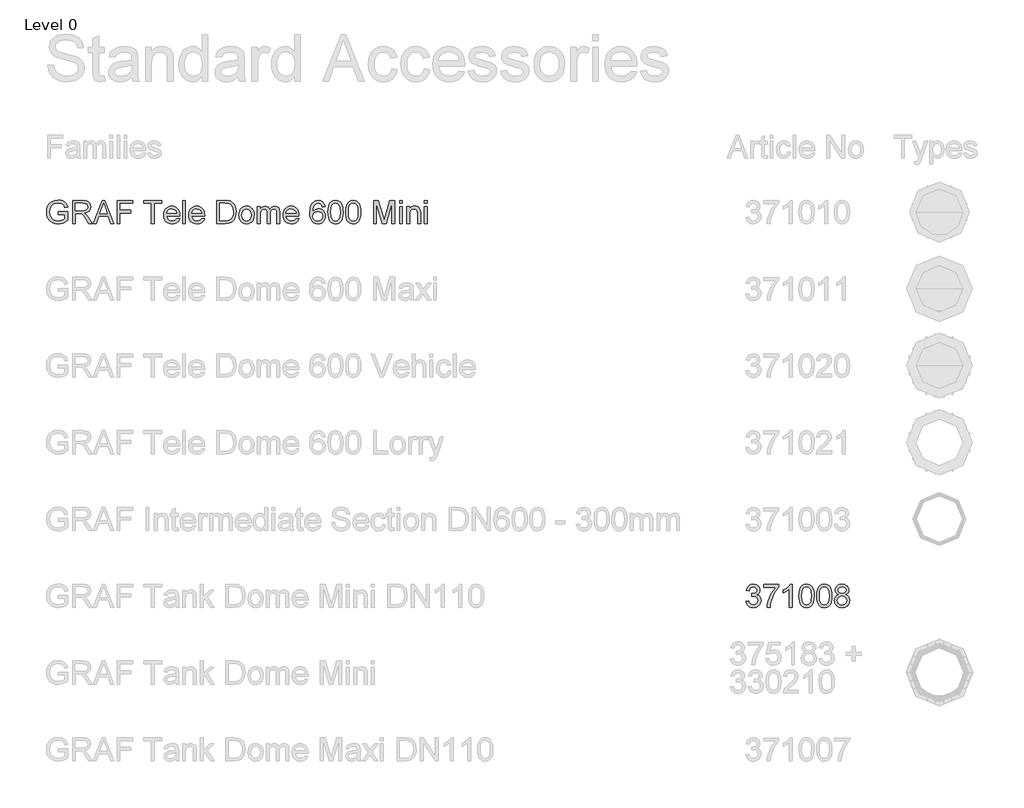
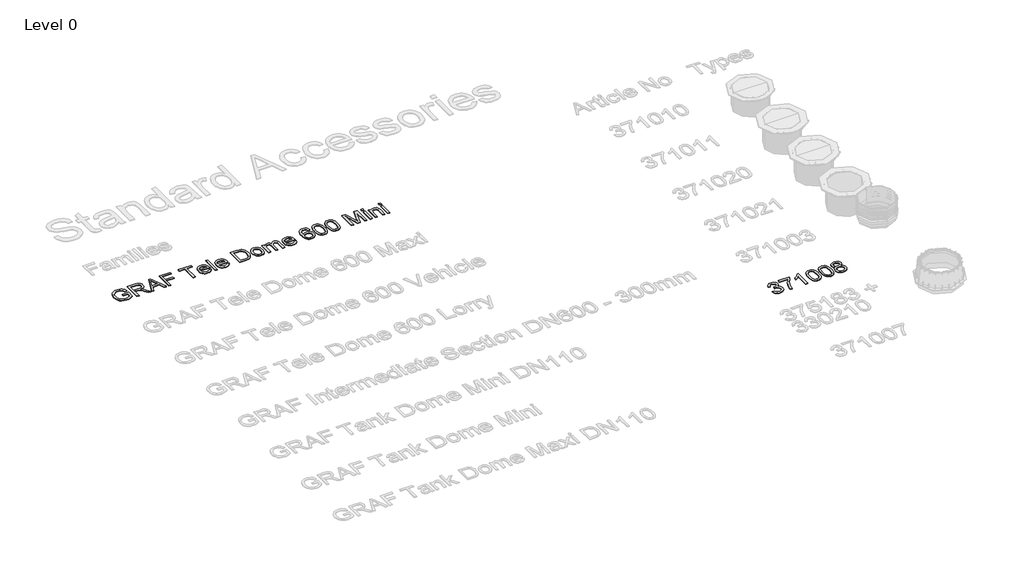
# One storey, part 9 of 20: 2 proxies.
"""IFC4 building model written with IfcOpenShell, lengths in millimetres."""

from ifc_helpers import new_model, si_unit, origin, origin_with_axes, place, context, project, spatial, polyline, outline, extrude, element, save

model = new_model("IFC4")

# Units and contexts
model_context = context("Model", 3, world=origin())
ifc_project = project(units=[si_unit("LENGTHUNIT", "METRE", prefix="MILLI")], contexts=[model_context])

# Site, building, storey
site = spatial("IfcSite", under=ifc_project)
building = spatial("IfcBuilding", under=site)
storey = spatial("IfcBuildingStorey", under=building, Name="Level 0", Elevation=0.0)

# Proxies
placement = place(None, origin())
element("IfcBuildingElementProxy", 1, Name="300mm Arial", ObjectType="300mm Arial", at=placement, inside=storey, context=model_context, shape_type="SweptSolid", body=[
    extrude(outline(polyline([(-15240.9940387, -9082.9794047), (-15240.9940387, -9045.3082884), (-15118.5629107, -9045.3082884), (-15118.5629107, -9157.9537553), (-15148.3153671, -9178.6471176), (-15179.0059225, -9193.4911561), (-15210.5610007, -9202.4306885), (-15242.9070251, -9205.4105327), (-15285.1674693, -9200.674052), (-15323.3628175, -9186.46461), (-15355.0926395, -9163.2788472), (-15377.9565055, -9131.6134045), (-15391.7796715, -9093.6295885), (-15396.3873935, -9051.4887059), (-15391.7980656, -9009.0443207), (-15378.0300819, -8969.5613856), (-15355.6536596, -8936.442809), (-15325.2390156, -8913.0914993), (-15288.1932987, -8899.2407422), (-15245.9236575, -8894.6238232), (-15214.8928112, -8897.3001647), (-15186.9889618, -8905.3291892), (-15163.4904994, -8918.1314827), (-15145.6758138, -8935.1276309), (-15132.4964413, -8957.1361712), (-15122.9039183, -8984.9756412), (-15157.6319786, -8994.7613023), (-15165.3850917, -8974.9048716), (-15174.8120678, -8959.9228773), (-15187.2832674, -8948.6289001), (-15204.169051, -8939.8365204), (-15224.3013932, -8934.1803347), (-15246.5122687, -8932.2949395), (-15272.5123287, -8934.3274875), (-15294.7415982, -8940.4251316), (-15313.1173039, -8949.8245166), (-15327.5566722, -8961.7622873), (-15346.9440533, -8990.7881767), (-15355.7732212, -9019.225455), (-15358.7162772, -9049.9436015), (-15355.175413, -9085.9684459), (-15344.5528204, -9115.6105377), (-15327.1703961, -9138.6583447), (-15303.3500369, -9154.9003348), (-15275.4737787, -9164.529646), (-15245.9236575, -9167.7394164), (-15219.831627, -9165.3205923), (-15194.3833899, -9158.0641199), (-15172.2828791, -9148.0669267), (-15156.234027, -9137.42594), (-15156.234027, -9082.9794047), (-15240.9940387, -9082.9794047)])), origin_with_axes(), (0.0, 0.0, 1.0), 10.0),
    extrude(outline(polyline([(-15057.3473467, -9200.7016432), (-15057.3473467, -8899.3327127), (-14927.4850024, -8899.3327127), (-14892.5821982, -8901.3652607), (-14867.1891434, -8907.4629048), (-14848.6294968, -8918.7200939), (-14834.2269167, -8936.2312768), (-14824.9838815, -8957.9455116), (-14821.9028698, -8981.811856), (-14827.0072325, -9011.4999331), (-14842.3203206, -9036.1112385), (-14853.9200997, -9046.1406214), (-14868.3019865, -9054.1558504), (-14905.4120827, -9064.1438466), (-14884.0013506, -9080.257078), (-14853.467145, -9119.0318402), (-14803.2144645, -9200.7016432), (-14846.9924219, -9200.7016432), (-14886.2086426, -9138.2352804), (-14914.5355562, -9096.8853441), (-14934.4379722, -9077.3508102), (-14952.3538253, -9070.1771113), (-14974.2060158, -9068.8527361), (-15019.6762304, -9068.8527361), (-15019.6762304, -9200.7016432), (-15057.3473467, -9200.7016432)]), holes=[polyline([(-15019.6762304, -9031.1816198), (-14935.3576771, -9031.1816198), (-14911.1418448, -9029.8480476), (-14892.3522719, -9025.8473309), (-14878.2072092, -9018.9127553), (-14867.9249074, -9008.7776063), (-14861.6617165, -8996.5179388), (-14859.5739861, -8983.2098076), (-14863.5563087, -8964.834102), (-14875.5032765, -8950.0268517), (-14896.058683, -8940.2595847), (-14925.8663217, -8937.003829), (-15019.6762304, -8937.003829), (-15019.6762304, -9031.1816198)])]), origin_with_axes(), (0.0, 0.0, 1.0), 10.0),
    extrude(outline(polyline([(-14791.0743586, -9200.7016432), (-14670.7769462, -8899.3327127), (-14638.6976362, -8899.3327127), (-14518.4002238, -9200.7016432), (-14558.2050557, -9200.7016432), (-14592.7123868, -9106.5238524), (-14716.835772, -9106.5238524), (-14751.2695268, -9200.7016432), (-14791.0743586, -9200.7016432)]), holes=[polyline([(-14703.003409, -9068.8527361), (-14606.4711735, -9068.8527361), (-14633.6208647, -8994.7613023), (-14654.7372912, -8937.003829), (-14673.499273, -8988.2865792), (-14703.003409, -9068.8527361)])]), origin_with_axes(), (0.0, 0.0, 1.0), 10.0),
    extrude(outline(polyline([(-14478.1539335, -9200.7016432), (-14478.1539335, -8899.3327127), (-14275.6716834, -8899.3327127), (-14275.6716834, -8937.003829), (-14440.4828172, -8937.003829), (-14440.4828172, -9026.4727303), (-14299.2161311, -9026.4727303), (-14299.2161311, -9064.1438466), (-14440.4828172, -9064.1438466), (-14440.4828172, -9200.7016432), (-14478.1539335, -9200.7016432)])), origin_with_axes(), (0.0, 0.0, 1.0), 10.0),
    extrude(outline(polyline([(-14030.8094274, -9200.7016432), (-14030.8094274, -8937.003829), (-14129.6961077, -8937.003829), (-14129.6961077, -8899.3327127), (-13894.2516308, -8899.3327127), (-13894.2516308, -8937.003829), (-13993.1383111, -8937.003829), (-13993.1383111, -9200.7016432), (-14030.8094274, -9200.7016432)])), origin_with_axes(), (0.0, 0.0, 1.0), 10.0),
    extrude(outline(polyline([(-13701.6286181, -9134.7771896), (-13664.6932658, -9139.4860792), (-13678.001397, -9167.3163521), (-13699.2373851, -9188.1200789), (-13727.9229837, -9201.0879193), (-13763.5799461, -9205.4105327), (-13786.9542484, -9203.5458308), (-13807.7809678, -9197.9517253), (-13826.0601045, -9188.6282159), (-13841.7916583, -9175.5753029), (-13854.4422004, -9159.1562696), (-13863.4783019, -9139.7343995), (-13868.8999628, -9117.3096927), (-13870.7071831, -9091.882149), (-13868.8815687, -9065.5923819), (-13863.4047255, -9042.4204147), (-13854.2766535, -9022.3662475), (-13841.4973527, -9005.4298801), (-13825.8071856, -8991.9745962), (-13807.9465147, -8982.363679), (-13787.9153401, -8976.5971288), (-13765.7136617, -8974.6749453), (-13744.2270539, -8976.5925302), (-13724.7959868, -8982.3452849), (-13707.4204603, -8991.9332094), (-13692.1004744, -9005.3563037), (-13679.5947859, -9022.2558829), (-13670.6621512, -9042.2732619), (-13665.3025704, -9065.4084409), (-13663.5160434, -9091.6614198), (-13663.7367726, -9101.8149629), (-13833.0360668, -9101.8149629), (-13826.5153584, -9130.0131178), (-13811.3678173, -9150.7432682), (-13789.5064297, -9163.4903794), (-13762.8441821, -9167.7394164), (-13742.7946134, -9165.7712477), (-13725.9088298, -9159.8667417), (-13712.1868314, -9149.6580163), (-13701.6286181, -9134.7771896)]), holes=[polyline([(-13833.0360668, -9064.1438466), (-13701.1871597, -9064.1438466), (-13706.2823254, -9044.2414306), (-13716.2703215, -9030.0043974), (-13738.2328766, -9016.7606456), (-13765.8608145, -9012.3460616), (-13791.2538692, -9015.8685317), (-13812.2507341, -9026.4359421), (-13826.8464522, -9042.9078584), (-13833.0360668, -9064.1438466)])]), origin_with_axes(), (0.0, 0.0, 1.0), 10.0),
    extrude(outline(polyline([(-13625.8449271, -9200.7016432), (-13625.8449271, -8899.3327127), (-13588.1738108, -8899.3327127), (-13588.1738108, -9200.7016432), (-13625.8449271, -9200.7016432)])), origin_with_axes(), (0.0, 0.0, 1.0), 10.0),
    extrude(outline(polyline([(-13376.71524, -9134.7771896), (-13339.7798877, -9139.4860792), (-13353.0880188, -9167.3163521), (-13374.324007, -9188.1200789), (-13403.0096056, -9201.0879193), (-13438.666568, -9205.4105327), (-13462.0408702, -9203.5458308), (-13482.8675897, -9197.9517253), (-13501.1467263, -9188.6282159), (-13516.8782801, -9175.5753029), (-13529.5288222, -9159.1562696), (-13538.5649238, -9139.7343995), (-13543.9865847, -9117.3096927), (-13545.793805, -9091.882149), (-13543.9681906, -9065.5923819), (-13538.4913474, -9042.4204147), (-13529.3632754, -9022.3662475), (-13516.5839745, -9005.4298801), (-13500.8938074, -8991.9745962), (-13483.0331366, -8982.363679), (-13463.0019619, -8976.5971288), (-13440.8002835, -8974.6749453), (-13419.3136758, -8976.5925302), (-13399.8826086, -8982.3452849), (-13382.5070821, -8991.9332094), (-13367.1870963, -9005.3563037), (-13354.6814077, -9022.2558829), (-13345.748773, -9042.2732619), (-13340.3891922, -9065.4084409), (-13338.6026653, -9091.6614198), (-13338.8233945, -9101.8149629), (-13508.1226887, -9101.8149629), (-13501.6019803, -9130.0131178), (-13486.4544391, -9150.7432682), (-13464.5930516, -9163.4903794), (-13437.930804, -9167.7394164), (-13417.8812352, -9165.7712477), (-13400.9954517, -9159.8667417), (-13387.2734532, -9149.6580163), (-13376.71524, -9134.7771896)]), holes=[polyline([(-13508.1226887, -9064.1438466), (-13376.2737816, -9064.1438466), (-13381.3689472, -9044.2414306), (-13391.3569434, -9030.0043974), (-13413.3194985, -9016.7606456), (-13440.9474363, -9012.3460616), (-13466.3404911, -9015.8685317), (-13487.3373559, -9026.4359421), (-13501.9330741, -9042.9078584), (-13508.1226887, -9064.1438466)])]), origin_with_axes(), (0.0, 0.0, 1.0), 10.0),
    extrude(outline(polyline([(-13178.500421, -9200.7016432), (-13178.500421, -8899.3327127), (-13074.5369691, -8899.3327127), (-13020.7526214, -8903.6737203), (-12996.7299272, -8912.0430357), (-12976.4596292, -8925.2316052), (-12955.6191142, -8948.1874417), (-12940.7750757, -8976.7350845), (-12931.8907255, -9010.3227107), (-12928.9292754, -9048.3984972), (-12930.9342323, -9080.7445216), (-12936.9491029, -9109.209391), (-12946.1093646, -9133.4436174), (-12957.5504947, -9153.097713), (-12970.7206701, -9168.6131361), (-12985.0680679, -9180.4313452), (-13001.5399842, -9189.1961338), (-13021.0837152, -9195.5512952), (-13069.533774, -9200.7016432), (-13178.500421, -9200.7016432)]), holes=[polyline([(-13140.8293047, -9163.0305269), (-13074.1690871, -9163.0305269), (-13046.5963316, -9161.6693635), (-13025.6822402, -9157.5858733), (-13009.9001026, -9151.0191797), (-12997.7232085, -9142.2084059), (-12984.6358066, -9125.9020365), (-12974.8041602, -9104.794807), (-12968.6513339, -9078.794747), (-12966.6003918, -9047.809886), (-12970.6195026, -9006.7542553), (-12982.6768349, -8976.4407789), (-13000.4915206, -8955.618658), (-13021.782691, -8943.0370938), (-13043.4509405, -8938.5121452), (-13075.1991567, -8937.003829), (-13140.8293047, -8937.003829), (-13140.8293047, -9163.0305269)])]), origin_with_axes(), (0.0, 0.0, 1.0), 10.0),
    extrude(outline(polyline([(-12891.2581591, -9090.042739), (-12889.2210126, -9061.3801331), (-12883.1095729, -9036.6814556), (-12872.9238402, -9015.9467067), (-12858.6638144, -8999.1758862), (-12844.3072195, -8988.4567246), (-12828.4607026, -8980.8001806), (-12811.1242635, -8976.2062541), (-12792.2979024, -8974.6749453), (-12771.514869, -8976.5396472), (-12752.7229968, -8982.1337528), (-12735.9222859, -8991.4572621), (-12721.1127364, -9004.5101751), (-12709.0255136, -9020.8510335), (-12700.391783, -9040.0383788), (-12695.2115447, -9062.0722111), (-12693.4847985, -9086.9525303), (-12696.5382191, -9125.0099227), (-12705.6984808, -9153.9806298), (-12720.6988691, -9175.6764705), (-12741.2726697, -9191.9092635), (-12765.7092312, -9202.0352154), (-12792.2979024, -9205.4105327), (-12813.3844386, -9203.5527286), (-12832.3510547, -9197.9793164), (-12849.1977508, -9188.690296), (-12863.9245269, -9175.6856675), (-12875.882991, -9159.18616), (-12884.4247511, -9139.4125028), (-12889.5498071, -9116.3646958), (-12891.2581591, -9090.042739)]), holes=[polyline([(-12853.5870428, -9089.9691626), (-12849.2276412, -9124.0626265), (-12836.1494363, -9148.3520353), (-12816.4677495, -9162.8925711), (-12792.2979024, -9167.7394164), (-12768.23842, -9162.86498), (-12748.5935214, -9148.2416707), (-12735.5153165, -9123.6303652), (-12731.1559148, -9088.7919402), (-12735.5429076, -9055.6917577), (-12748.703886, -9031.7334428), (-12768.3763757, -9017.1929069), (-12792.2979024, -9012.3460616), (-12816.4677495, -9017.1745128), (-12836.1494363, -9031.6598664), (-12849.2276412, -9055.8940928), (-12853.5870428, -9089.9691626)])]), origin_with_axes(), (0.0, 0.0, 1.0), 10.0),
    extrude(outline(polyline([(-12651.1047927, -9200.7016432), (-12651.1047927, -8979.3838349), (-12613.4336764, -8979.3838349), (-12613.4336764, -9015.8041524), (-12602.1029109, -8999.0747187), (-12587.5347839, -8985.9689226), (-12570.2259361, -8977.4984396), (-12550.673008, -8974.6749453), (-12529.7221284, -8977.5536219), (-12512.9283153, -8986.1896518), (-12500.3835393, -9000.0128178), (-12492.1797708, -9018.4529028), (-12478.4485753, -8999.3000464), (-12462.7859994, -8985.6194347), (-12445.1920429, -8977.4110677), (-12425.666706, -8974.6749453), (-12397.3489895, -8979.227485), (-12376.4073069, -8992.8851041), (-12363.4670577, -9016.0156845), (-12359.1536413, -9048.9871084), (-12359.1536413, -9200.7016432), (-12396.8247576, -9200.7016432), (-12396.8247576, -9065.1739161), (-12400.3196366, -9033.7200056), (-12405.2308612, -9025.0471875), (-12412.9747772, -9018.2321736), (-12422.9351822, -9013.8175896), (-12434.4958739, -9012.3460616), (-12454.9041276, -9016.1168521), (-12471.5415908, -9027.4292234), (-12482.6056419, -9047.0557279), (-12486.2936589, -9075.7689176), (-12486.2936589, -9200.7016432), (-12523.9647752, -9200.7016432), (-12523.9647752, -9060.9800614), (-12526.144476, -9039.6796939), (-12532.6835784, -9024.4861675), (-12544.1890878, -9015.3810881), (-12561.2680095, -9012.3460616), (-12575.7809542, -9014.3694126), (-12589.1534647, -9020.4394655), (-12600.1899246, -9030.4090676), (-12607.6947173, -9044.131066), (-12611.9989366, -9063.1689593), (-12613.4336764, -9089.0862458), (-12613.4336764, -9200.7016432), (-12651.1047927, -9200.7016432)])), origin_with_axes(), (0.0, 0.0, 1.0), 10.0),
    extrude(outline(polyline([(-12147.6950705, -9134.7771896), (-12110.7597182, -9139.4860792), (-12124.0678494, -9167.3163521), (-12145.3038375, -9188.1200789), (-12173.9894361, -9201.0879193), (-12209.6463985, -9205.4105327), (-12233.0207007, -9203.5458308), (-12253.8474202, -9197.9517253), (-12272.1265568, -9188.6282159), (-12287.8581107, -9175.5753029), (-12300.5086528, -9159.1562696), (-12309.5447543, -9139.7343995), (-12314.9664152, -9117.3096927), (-12316.7736355, -9091.882149), (-12314.9480211, -9065.5923819), (-12309.4711779, -9042.4204147), (-12300.3431059, -9022.3662475), (-12287.5638051, -9005.4298801), (-12271.873638, -8991.9745962), (-12254.0129671, -8982.363679), (-12233.9817925, -8976.5971288), (-12211.7801141, -8974.6749453), (-12190.2935063, -8976.5925302), (-12170.8624391, -8982.3452849), (-12153.4869127, -8991.9332094), (-12138.1669268, -9005.3563037), (-12125.6612382, -9022.2558829), (-12116.7286035, -9042.2732619), (-12111.3690227, -9065.4084409), (-12109.5824958, -9091.6614198), (-12109.803225, -9101.8149629), (-12279.1025192, -9101.8149629), (-12272.5818108, -9130.0131178), (-12257.4342697, -9150.7432682), (-12235.5728821, -9163.4903794), (-12208.9106345, -9167.7394164), (-12188.8610658, -9165.7712477), (-12171.9752822, -9159.8667417), (-12158.2532838, -9149.6580163), (-12147.6950705, -9134.7771896)]), holes=[polyline([(-12279.1025192, -9064.1438466), (-12147.2536121, -9064.1438466), (-12152.3487777, -9044.2414306), (-12162.3367739, -9030.0043974), (-12184.299329, -9016.7606456), (-12211.9272668, -9012.3460616), (-12237.3203216, -9015.8685317), (-12258.3171864, -9026.4359421), (-12272.9129046, -9042.9078584), (-12279.1025192, -9064.1438466)])]), origin_with_axes(), (0.0, 0.0, 1.0), 10.0),
    extrude(outline(polyline([(-11770.542449, -8979.3838349), (-11808.2135653, -8984.0927244), (-11814.2836183, -8965.4227132), (-11822.4873868, -8952.675602), (-11839.5755054, -8940.9217723), (-11860.2320795, -8937.003829), (-11877.7432624, -8939.2846974), (-11894.2243758, -8946.1273025), (-11908.3786356, -8960.5390797), (-11919.9393273, -8980.3771163), (-11927.7476226, -9008.4373154), (-11930.6446933, -9047.5155804), (-11915.5339404, -9029.8848358), (-11897.4249492, -9017.4596214), (-11877.3293952, -9010.0927844), (-11856.2589539, -9007.6371721), (-11838.1591597, -9009.3156337), (-11821.4573172, -9014.3510185), (-11806.1534262, -9022.7433265), (-11792.2474868, -9034.4925578), (-11780.6913936, -9048.8997364), (-11772.4370413, -9065.2658866), (-11767.48443, -9083.5910085), (-11765.8335595, -9103.875102), (-11768.9421624, -9130.8500493), (-11778.2679709, -9155.856828), (-11793.038433, -9177.065225), (-11812.4809965, -9192.6450275), (-11835.7127445, -9202.2191564), (-11861.8507602, -9205.4105327), (-11884.3076568, -9203.2952112), (-11904.589451, -9196.9492468), (-11922.696143, -9186.3726395), (-11938.6277326, -9171.5653892), (-11951.6162663, -9151.9020965), (-11960.8937904, -9126.7573621), (-11966.4603048, -9096.131186), (-11968.3158096, -9060.0235682), (-11966.2556705, -9019.5427532), (-11960.075253, -8984.9940353), (-11949.7745571, -8956.3774146), (-11935.3535829, -8933.6928911), (-11919.7231966, -8918.660313), (-11901.6004098, -8907.9227573), (-11880.9852225, -8901.4802239), (-11857.8776347, -8899.3327127), (-11824.8234374, -8904.6486076), (-11798.3543279, -8920.596292), (-11779.8130753, -8945.9249674), (-11770.542449, -8979.3838349)]), holes=[polyline([(-11930.6446933, -9103.2864908), (-11928.4649925, -9119.9791364), (-11921.9258901, -9135.9176238), (-11911.772347, -9149.6212281), (-11898.7493244, -9159.6092243), (-11883.0315661, -9165.7068684), (-11864.7938162, -9167.7394164), (-11839.9341904, -9163.5271676), (-11820.3904594, -9150.890421), (-11807.7261217, -9131.0247933), (-11803.5046758, -9105.1259008), (-11807.6709394, -9080.266275), (-11820.1697302, -9061.3111552), (-11840.044555, -9049.3090051), (-11866.3389206, -9045.3082884), (-11891.1617582, -9049.3090051), (-11911.9194998, -9061.3111552), (-11925.9633949, -9079.8064225), (-11930.6446933, -9103.2864908)])]), origin_with_axes(), (0.0, 0.0, 1.0), 10.0),
    extrude(outline(polyline([(-11732.8713327, -9052.4451991), (-11730.1030207, -9004.2066725), (-11721.7980847, -8965.7354129), (-11708.0392981, -8936.442809), (-11688.9094343, -8915.7402497), (-11664.2705377, -8903.434597), (-11633.9846524, -8899.3327127), (-11610.7712985, -8901.7607339), (-11589.9859658, -8909.0447974), (-11572.6035415, -8920.8997947), (-11559.598913, -8937.0406172), (-11549.7764637, -8957.3293093), (-11541.9405772, -8981.627915), (-11536.8086234, -9012.4840174), (-11535.0979721, -9052.4451991), (-11537.838693, -9100.4078142), (-11546.0608556, -9138.7871034), (-11559.7368687, -9168.1072984), (-11578.8391413, -9188.8926311), (-11603.5332203, -9201.2810573), (-11633.9846524, -9205.4105327), (-11654.733197, -9203.617108), (-11673.1272967, -9198.2368338), (-11689.1669517, -9189.2697102), (-11702.8521619, -9176.7157371), (-11715.9855492, -9154.0220165), (-11725.36654, -9125.7456867), (-11730.9951346, -9091.8867475), (-11732.8713327, -9052.4451991)]), holes=[polyline([(-11695.2002164, -9052.3716227), (-11690.7856325, -9111.6282151), (-11685.2674026, -9131.8962138), (-11677.5418807, -9145.9240141), (-11657.8234057, -9162.2855658), (-11633.9846524, -9167.7394164), (-11610.1458991, -9162.2671717), (-11590.4274242, -9145.8504377), (-11582.7019023, -9131.7996447), (-11577.1836724, -9111.5362446), (-11572.7690884, -9052.3716227), (-11577.0365196, -8994.4486026), (-11582.3708085, -8974.2472825), (-11589.838813, -8959.8860891), (-11609.5204997, -8942.7243941), (-11634.4261108, -8937.003829), (-11658.0073467, -8942.0438124), (-11676.9532695, -8957.1637624), (-11684.9363088, -8972.7987472), (-11690.6384797, -8993.8783855), (-11695.2002164, -9052.3716227)])]), origin_with_axes(), (0.0, 0.0, 1.0), 10.0),
    extrude(outline(polyline([(-11502.1357454, -9052.4451991), (-11499.3674333, -9004.2066725), (-11491.0624973, -8965.7354129), (-11477.3037107, -8936.442809), (-11458.1738469, -8915.7402497), (-11433.5349503, -8903.434597), (-11403.2490651, -8899.3327127), (-11380.0357112, -8901.7607339), (-11359.2503784, -8909.0447974), (-11341.8679542, -8920.8997947), (-11328.8633256, -8937.0406172), (-11319.0408764, -8957.3293093), (-11311.2049899, -8981.627915), (-11306.073036, -9012.4840174), (-11304.3623847, -9052.4451991), (-11307.1031056, -9100.4078142), (-11315.3252682, -9138.7871034), (-11329.0012814, -9168.1072984), (-11348.103554, -9188.8926311), (-11372.7976329, -9201.2810573), (-11403.2490651, -9205.4105327), (-11423.9976096, -9203.617108), (-11442.3917093, -9198.2368338), (-11458.4313643, -9189.2697102), (-11472.1165745, -9176.7157371), (-11485.2499618, -9154.0220165), (-11494.6309527, -9125.7456867), (-11500.2595472, -9091.8867475), (-11502.1357454, -9052.4451991)]), holes=[polyline([(-11464.464629, -9052.3716227), (-11460.0500451, -9111.6282151), (-11454.5318152, -9131.8962138), (-11446.8062933, -9145.9240141), (-11427.0878183, -9162.2855658), (-11403.2490651, -9167.7394164), (-11379.4103118, -9162.2671717), (-11359.6918368, -9145.8504377), (-11351.9663149, -9131.7996447), (-11346.448085, -9111.5362446), (-11342.0335011, -9052.3716227), (-11346.3009322, -8994.4486026), (-11351.6352211, -8974.2472825), (-11359.1032256, -8959.8860891), (-11378.7849124, -8942.7243941), (-11403.6905234, -8937.003829), (-11427.2717593, -8942.0438124), (-11446.2176821, -8957.1637624), (-11454.2007214, -8972.7987472), (-11459.9028923, -8993.8783855), (-11464.464629, -9052.3716227)])]), origin_with_axes(), (0.0, 0.0, 1.0), 10.0),
    extrude(outline(polyline([(-11139.5512509, -9200.7016432), (-11139.5512509, -8899.3327127), (-11074.7304434, -8899.3327127), (-11013.073421, -9111.7477767), (-11000.6390095, -9156.1143454), (-10987.1745285, -9108.0689568), (-10926.5475757, -8899.3327127), (-10861.7267682, -8899.3327127), (-10861.7267682, -9200.7016432), (-10899.3978845, -9200.7016432), (-10899.3978845, -8937.003829), (-10975.1079991, -9200.7016432), (-11026.17002, -9200.7016432), (-11101.8801346, -8937.003829), (-11101.8801346, -9200.7016432), (-11139.5512509, -9200.7016432)])), origin_with_axes(), (0.0, 0.0, 1.0), 10.0),
    extrude(outline(polyline([(-10800.5112042, -8937.003829), (-10800.5112042, -8899.3327127), (-10762.8400878, -8899.3327127), (-10762.8400878, -8937.003829), (-10800.5112042, -8937.003829)])), origin_with_axes(), (0.0, 0.0, 1.0), 10.0),
    extrude(outline(polyline([(-10800.5112042, -9200.7016432), (-10800.5112042, -8979.3838349), (-10762.8400878, -8979.3838349), (-10762.8400878, -9200.7016432), (-10800.5112042, -9200.7016432)])), origin_with_axes(), (0.0, 0.0, 1.0), 10.0),
    extrude(outline(polyline([(-10706.3334134, -9200.7016432), (-10706.3334134, -8979.3838349), (-10668.6622971, -8979.3838349), (-10668.6622971, -9010.2859225), (-10655.5748951, -8994.70612), (-10639.8571369, -8983.5776896), (-10621.5090224, -8976.9006314), (-10600.5305516, -8974.6749453), (-10581.9617079, -8976.4683701), (-10564.9563626, -8981.8486442), (-10550.7745117, -8990.1443832), (-10540.676151, -9000.6842024), (-10529.3821737, -9028.3857166), (-10527.3956109, -9064.8060342), (-10527.3956109, -9200.7016432), (-10565.0667272, -9200.7016432), (-10565.0667272, -9069.8828057), (-10569.4077348, -9036.5526969), (-10575.4134084, -9026.6290801), (-10584.748414, -9018.9311494), (-10596.7137759, -9013.9923336), (-10610.6105182, -9012.3460616), (-10632.6742409, -9016.0432757), (-10651.4822079, -9027.1349178), (-10658.9984969, -9036.1894135), (-10664.3672748, -9048.5640441), (-10668.6622971, -9083.2737103), (-10668.6622971, -9200.7016432), (-10706.3334134, -9200.7016432)])), origin_with_axes(), (0.0, 0.0, 1.0), 10.0),
    extrude(outline(polyline([(-10475.597826, -8937.003829), (-10475.597826, -8899.3327127), (-10437.9267097, -8899.3327127), (-10437.9267097, -8937.003829), (-10475.597826, -8937.003829)])), origin_with_axes(), (0.0, 0.0, 1.0), 10.0),
    extrude(outline(polyline([(-10475.597826, -9200.7016432), (-10475.597826, -8979.3838349), (-10437.9267097, -8979.3838349), (-10437.9267097, -9200.7016432), (-10475.597826, -9200.7016432)])), origin_with_axes(), (0.0, 0.0, 1.0), 10.0),
])
element("IfcBuildingElementProxy", 2, Name="300mm Arial", ObjectType="300mm Arial", at=placement, inside=storey, context=model_context, shape_type="SweptSolid", body=[
    extrude(outline(polyline([(-6292.0538732, -14120.650521), (-6254.3827568, -14115.9416315), (-6245.9490621, -14139.6148379), (-6233.5974241, -14155.5993106), (-6216.7208376, -14164.7043899), (-6194.7122972, -14167.7394164), (-6168.8869812, -14163.5639558), (-6148.947777, -14151.0375738), (-6136.2006659, -14132.3491685), (-6131.9516289, -14109.6876376), (-6136.1638777, -14088.1757379), (-6148.8006242, -14070.7289343), (-6167.930488, -14059.1682426), (-6191.6220885, -14055.3146787), (-6218.0360157, -14059.434957), (-6213.842161, -14021.7638407), (-6207.8088963, -14022.2052991), (-6185.2393359, -14019.5013664), (-6165.0610084, -14011.3895685), (-6150.8239752, -13997.66757), (-6146.0782975, -13978.1330361), (-6149.5179941, -13961.8634549), (-6159.8370841, -13948.6656883), (-6175.5824335, -13939.9192938), (-6195.3009084, -13937.003829), (-6215.0561716, -13939.946885), (-6231.2061912, -13948.7760529), (-6242.9968091, -13963.4913327), (-6249.6738673, -13984.0927244), (-6287.3449836, -13979.3838349), (-6276.2533415, -13945.5570854), (-6256.5164724, -13920.3019864), (-6229.513934, -13904.5750312), (-6196.6252836, -13899.3327127), (-6172.9428802, -13901.9170837), (-6151.1918572, -13909.6701968), (-6132.8529397, -13921.9022731), (-6119.4068528, -13937.923534), (-6111.1570991, -13956.3820131), (-6108.4071812, -13975.9257441), (-6111.0191433, -13994.1359029), (-6118.8550298, -14010.6538045), (-6131.8044761, -14024.7252908), (-6149.7571174, -14035.5962037), (-6126.1758815, -14045.1243474), (-6108.7014868, -14061.3479434), (-6097.8857561, -14083.3840749), (-6094.2805125, -14110.3498252), (-6096.0831343, -14129.4612948), (-6101.4909997, -14147.0644483), (-6110.5041085, -14163.1592856), (-6123.122461, -14177.7458067), (-6138.4953298, -14189.8491243), (-6155.771988, -14198.4943512), (-6174.9524356, -14203.6814873), (-6196.0366724, -14205.4105327), (-6215.0929598, -14203.9344062), (-6232.4569899, -14199.5060267), (-6248.1287629, -14192.1253942), (-6262.1082787, -14181.7925086), (-6273.8299188, -14169.1143754), (-6282.7280646, -14154.6979997), (-6288.802716, -14138.5433816), (-6292.0538732, -14120.650521)])), origin_with_axes(), (0.0, 0.0, 1.0), 10.0),
    extrude(outline(polyline([(-6061.3182858, -13941.7127186), (-6061.3182858, -13904.0416023), (-5863.5449252, -13904.0416023), (-5863.5449252, -13934.5022315), (-5891.7338831, -13970.1775879), (-5919.6469294, -14015.546635), (-5944.267432, -14066.4707002), (-5962.5787583, -14118.811111), (-5971.555079, -14157.9721494), (-5976.5582741, -14200.7016432), (-6014.2293904, -14200.7016432), (-6010.1550973, -14161.8716986), (-5999.2565932, -14115.7209023), (-5981.8281837, -14066.801794), (-5958.1641743, -14019.6669133), (-5930.5362365, -13977.0569813), (-5901.2160415, -13941.7127186), (-6061.3182858, -13941.7127186)])), origin_with_axes(), (0.0, 0.0, 1.0), 10.0),
    extrude(outline(polyline([(-5689.3160123, -14200.7016432), (-5726.9871286, -14200.7016432), (-5726.9871286, -13965.8457775), (-5762.6716821, -13991.2664233), (-5802.3293612, -14010.2859225), (-5802.3293612, -13974.6749453), (-5772.7424517, -13958.580108), (-5747.1102737, -13939.4318502), (-5726.9043551, -13919.0695818), (-5713.5962239, -13899.3327127), (-5689.3160123, -13899.3327127), (-5689.3160123, -14200.7016432)])), origin_with_axes(), (0.0, 0.0, 1.0), 10.0),
    extrude(outline(polyline([(-5599.847111, -14052.4451991), (-5597.078799, -14004.2066725), (-5588.773863, -13965.7354129), (-5575.0150764, -13936.442809), (-5555.8852126, -13915.7402497), (-5531.246316, -13903.434597), (-5500.9604307, -13899.3327127), (-5477.7470768, -13901.7607339), (-5456.9617441, -13909.0447974), (-5439.5793198, -13920.8997947), (-5426.5746913, -13937.0406172), (-5416.752242, -13957.3293093), (-5408.9163555, -13981.627915), (-5403.7844017, -14012.4840174), (-5402.0737504, -14052.4451991), (-5404.8144713, -14100.4078142), (-5413.0366339, -14138.7871034), (-5426.7126471, -14168.1072984), (-5445.8149197, -14188.8926311), (-5470.5089986, -14201.2810573), (-5500.9604307, -14205.4105327), (-5521.7089753, -14203.617108), (-5540.103075, -14198.2368338), (-5556.14273, -14189.2697102), (-5569.8279402, -14176.7157371), (-5582.9613275, -14154.0220165), (-5592.3423183, -14125.7456867), (-5597.9709129, -14091.8867475), (-5599.847111, -14052.4451991)]), holes=[polyline([(-5562.1759947, -14052.3716227), (-5557.7614108, -14111.6282151), (-5552.2431809, -14131.8962138), (-5544.517659, -14145.9240141), (-5524.799184, -14162.2855658), (-5500.9604307, -14167.7394164), (-5477.1216774, -14162.2671717), (-5457.4032025, -14145.8504377), (-5449.6776806, -14131.7996447), (-5444.1594507, -14111.5362446), (-5439.7448667, -14052.3716227), (-5444.0122979, -13994.4486026), (-5449.3465868, -13974.2472825), (-5456.8145913, -13959.8860891), (-5476.496278, -13942.7243941), (-5501.4018891, -13937.003829), (-5524.983125, -13942.0438124), (-5543.9290478, -13957.1637624), (-5551.9120871, -13972.7987472), (-5557.614258, -13993.8783855), (-5562.1759947, -14052.3716227)])]), origin_with_axes(), (0.0, 0.0, 1.0), 10.0),
    extrude(outline(polyline([(-5369.1115237, -14052.4451991), (-5366.3432116, -14004.2066725), (-5358.0382756, -13965.7354129), (-5344.279489, -13936.442809), (-5325.1496252, -13915.7402497), (-5300.5107286, -13903.434597), (-5270.2248434, -13899.3327127), (-5247.0114895, -13901.7607339), (-5226.2261567, -13909.0447974), (-5208.8437325, -13920.8997947), (-5195.8391039, -13937.0406172), (-5186.0166547, -13957.3293093), (-5178.1807682, -13981.627915), (-5173.0488143, -14012.4840174), (-5171.338163, -14052.4451991), (-5174.0788839, -14100.4078142), (-5182.3010465, -14138.7871034), (-5195.9770597, -14168.1072984), (-5215.0793323, -14188.8926311), (-5239.7734112, -14201.2810573), (-5270.2248434, -14205.4105327), (-5290.9733879, -14203.617108), (-5309.3674876, -14198.2368338), (-5325.4071426, -14189.2697102), (-5339.0923528, -14176.7157371), (-5352.2257401, -14154.0220165), (-5361.606731, -14125.7456867), (-5367.2353255, -14091.8867475), (-5369.1115237, -14052.4451991)]), holes=[polyline([(-5331.4404073, -14052.3716227), (-5327.0258234, -14111.6282151), (-5321.5075935, -14131.8962138), (-5313.7820716, -14145.9240141), (-5294.0635966, -14162.2855658), (-5270.2248434, -14167.7394164), (-5246.3860901, -14162.2671717), (-5226.6676151, -14145.8504377), (-5218.9420932, -14131.7996447), (-5213.4238633, -14111.5362446), (-5209.0092794, -14052.3716227), (-5213.2767105, -13994.4486026), (-5218.6109994, -13974.2472825), (-5226.0790039, -13959.8860891), (-5245.7606907, -13942.7243941), (-5270.6663017, -13937.003829), (-5294.2475376, -13942.0438124), (-5313.1934604, -13957.1637624), (-5321.1764997, -13972.7987472), (-5326.8786706, -13993.8783855), (-5331.4404073, -14052.3716227)])]), origin_with_axes(), (0.0, 0.0, 1.0), 10.0),
    extrude(outline(polyline([(-5083.4879426, -14034.7132869), (-5103.657073, -14024.7804731), (-5117.8113328, -14011.3159921), (-5126.1714511, -13994.5957554), (-5128.9581572, -13974.8956745), (-5127.440644, -13959.5320027), (-5122.8881043, -13945.4467208), (-5115.3005381, -13932.6398289), (-5104.6779455, -13921.1113268), (-5091.5307627, -13911.5831832), (-5076.369426, -13904.7773663), (-5040.0042908, -13899.3327127), (-5003.4184264, -13904.906125), (-4988.0915427, -13911.8728902), (-4974.7420248, -13921.6263616), (-4963.9262942, -13933.3801914), (-4956.2007723, -13946.3480317), (-4951.5654591, -13960.5298826), (-4950.0203548, -13975.9257441), (-4952.7702727, -13994.9912285), (-4961.0200264, -14011.4263567), (-4974.8615865, -14024.8080642), (-4994.3869234, -14034.7132869), (-4971.2011606, -14046.6602547), (-4954.3245741, -14064.2542112), (-4944.0330753, -14086.6490276), (-4940.6025757, -14112.9985755), (-4942.3040299, -14131.7881484), (-4947.4083926, -14149.0142229), (-4955.9156637, -14164.6767988), (-4967.8258433, -14178.7758763), (-4982.513532, -14190.4285385), (-4999.3533303, -14198.7518686), (-5018.3452383, -14203.7458667), (-5039.489256, -14205.4105327), (-5060.6332737, -14203.7389689), (-5079.6251817, -14198.7242774), (-5096.46498, -14190.3664584), (-5111.1526686, -14178.6655117), (-5123.0628482, -14164.4675659), (-5131.5701194, -14148.6187497), (-5136.6744821, -14131.119063), (-5138.3759363, -14111.9685059), (-5134.8074809, -14084.5980855), (-5124.1021149, -14062.0837074), (-5106.8116611, -14045.1979238), (-5083.4879426, -14034.7132869)]), holes=[polyline([(-5091.2870409, -13975.9993205), (-5087.9485118, -13992.4436457), (-5077.9329245, -14005.5770329), (-5061.5345845, -14014.1854716), (-5039.0477976, -14017.0549512), (-5017.0852425, -14014.2038657), (-5000.9352229, -14005.6506093), (-4991.002409, -13992.9586805), (-4987.6914711, -13977.6915777), (-4991.1127736, -13961.8450608), (-5001.3766813, -13948.7392647), (-5017.7474301, -13939.9376879), (-5039.489256, -13937.003829), (-5061.3690376, -13939.8733086), (-5077.7121953, -13948.4817473), (-5087.8933295, -13961.1000997), (-5091.2870409, -13975.9993205)]), polyline([(-5100.70482, -14110.6441308), (-5094.4140379, -14139.0078326), (-5085.7044316, -14151.1755296), (-5072.1571771, -14160.2346237), (-5055.9335812, -14165.8632182), (-5039.1949504, -14167.7394164), (-5013.5535753, -14163.793882), (-4994.313347, -14151.9572788), (-4982.2836057, -14134.0322286), (-4978.273692, -14111.8213531), (-4982.4123644, -14089.2333986), (-4994.8283818, -14070.9128753), (-5014.5100685, -14058.7727694), (-5040.4457492, -14054.7260675), (-5065.7284393, -14058.7175871), (-5084.7755296, -14070.6921461), (-5096.7224974, -14088.6631815), (-5100.70482, -14110.6441308)])]), origin_with_axes(), (0.0, 0.0, 1.0), 10.0),
])

save(model, "model.ifc")
